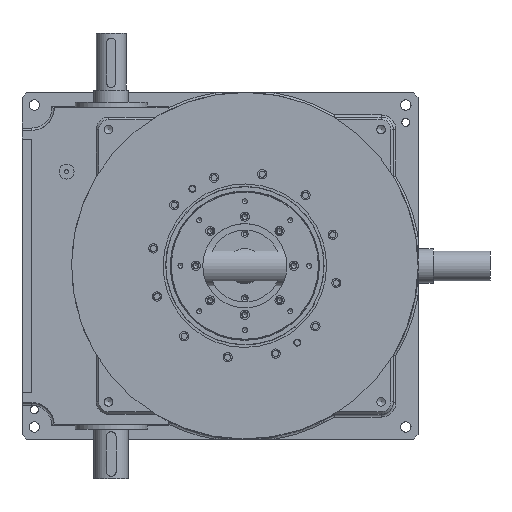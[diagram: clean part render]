
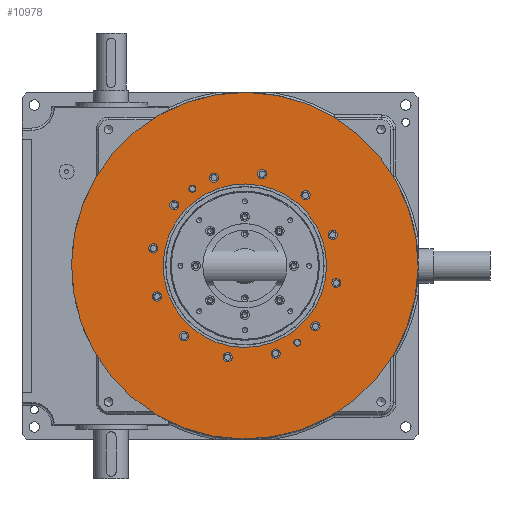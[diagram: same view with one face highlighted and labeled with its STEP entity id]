
A CAD part, top view. The second image highlights one B-rep face of the part: STEP entity #10978.
In plain terms, the highlighted planar face has unit normal (0, 0, 1).
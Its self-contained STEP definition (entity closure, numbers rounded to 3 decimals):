
#10978 = ADVANCED_FACE( '', ( #20143, #20144, #20145, #20146, #20147, #20148, #20149, #20150, #20151, #20152, #20153, #20154, #20155, #20156, #20157, #20158 ), #20159, .T. );
#20143 = FACE_BOUND( '', #23901, .T. );
#20144 = FACE_BOUND( '', #23902, .T. );
#20145 = FACE_BOUND( '', #23903, .T. );
#20146 = FACE_BOUND( '', #23904, .T. );
#20147 = FACE_BOUND( '', #23905, .T. );
#20148 = FACE_BOUND( '', #23906, .T. );
#20149 = FACE_BOUND( '', #23907, .T. );
#20150 = FACE_BOUND( '', #23908, .T. );
#20151 = FACE_BOUND( '', #23909, .T. );
#20152 = FACE_BOUND( '', #23910, .T. );
#20153 = FACE_BOUND( '', #23911, .T. );
#20154 = FACE_BOUND( '', #23912, .T. );
#20155 = FACE_BOUND( '', #23913, .T. );
#20156 = FACE_BOUND( '', #23914, .T. );
#20157 = FACE_BOUND( '', #23915, .T. );
#20158 = FACE_OUTER_BOUND( '', #23916, .T. );
#20159 = PLANE( '', #23917 );
#23901 = EDGE_LOOP( '', ( #29271 ) );
#23902 = EDGE_LOOP( '', ( #29272 ) );
#23903 = EDGE_LOOP( '', ( #29273 ) );
#23904 = EDGE_LOOP( '', ( #29274 ) );
#23905 = EDGE_LOOP( '', ( #29275 ) );
#23906 = EDGE_LOOP( '', ( #29276 ) );
#23907 = EDGE_LOOP( '', ( #29277 ) );
#23908 = EDGE_LOOP( '', ( #29278 ) );
#23909 = EDGE_LOOP( '', ( #29279 ) );
#23910 = EDGE_LOOP( '', ( #29280 ) );
#23911 = EDGE_LOOP( '', ( #29281 ) );
#23912 = EDGE_LOOP( '', ( #29282 ) );
#23913 = EDGE_LOOP( '', ( #29283 ) );
#23914 = EDGE_LOOP( '', ( #29284 ) );
#23915 = EDGE_LOOP( '', ( #29285 ) );
#23916 = EDGE_LOOP( '', ( #29286 ) );
#23917 = AXIS2_PLACEMENT_3D( '', #29287, #29288, #29289 );
#29271 = ORIENTED_EDGE( '', *, *, #37370, .T. );
#29272 = ORIENTED_EDGE( '', *, *, #37411, .T. );
#29273 = ORIENTED_EDGE( '', *, *, #37412, .T. );
#29274 = ORIENTED_EDGE( '', *, *, #37413, .T. );
#29275 = ORIENTED_EDGE( '', *, *, #37414, .T. );
#29276 = ORIENTED_EDGE( '', *, *, #37415, .T. );
#29277 = ORIENTED_EDGE( '', *, *, #37416, .T. );
#29278 = ORIENTED_EDGE( '', *, *, #37417, .T. );
#29279 = ORIENTED_EDGE( '', *, *, #37418, .T. );
#29280 = ORIENTED_EDGE( '', *, *, #37419, .T. );
#29281 = ORIENTED_EDGE( '', *, *, #37420, .T. );
#29282 = ORIENTED_EDGE( '', *, *, #37421, .T. );
#29283 = ORIENTED_EDGE( '', *, *, #37422, .T. );
#29284 = ORIENTED_EDGE( '', *, *, #37423, .T. );
#29285 = ORIENTED_EDGE( '', *, *, #37424, .F. );
#29286 = ORIENTED_EDGE( '', *, *, #37364, .F. );
#29287 = CARTESIAN_POINT( '', ( 80., 0., 77. ) );
#29288 = DIRECTION( '', ( 0., 0., 1. ) );
#29289 = DIRECTION( '', ( 1., 0., 0. ) );
#37364 = EDGE_CURVE( '', #41152, #41152, #41153, .F. );
#37370 = EDGE_CURVE( '', #41164, #41164, #41165, .T. );
#37411 = EDGE_CURVE( '', #41246, #41246, #41247, .T. );
#37412 = EDGE_CURVE( '', #41248, #41248, #41249, .T. );
#37413 = EDGE_CURVE( '', #41250, #41250, #41251, .T. );
#37414 = EDGE_CURVE( '', #41252, #41252, #41253, .T. );
#37415 = EDGE_CURVE( '', #41254, #41254, #41255, .T. );
#37416 = EDGE_CURVE( '', #41256, #41256, #41257, .T. );
#37417 = EDGE_CURVE( '', #41258, #41258, #41259, .T. );
#37418 = EDGE_CURVE( '', #41260, #41260, #41261, .T. );
#37419 = EDGE_CURVE( '', #41262, #41262, #41263, .T. );
#37420 = EDGE_CURVE( '', #41264, #41264, #41265, .T. );
#37421 = EDGE_CURVE( '', #41266, #41266, #41267, .T. );
#37422 = EDGE_CURVE( '', #41268, #41268, #41269, .T. );
#37423 = EDGE_CURVE( '', #41270, #41270, #41271, .T. );
#37424 = EDGE_CURVE( '', #41272, #41272, #41273, .T. );
#41152 = VERTEX_POINT( '', #41332 );
#41153 = CIRCLE( '', #41333, 350. );
#41164 = VERTEX_POINT( '', #41344 );
#41165 = CIRCLE( '', #41345, 7.25 );
#41246 = VERTEX_POINT( '', #41426 );
#41247 = CIRCLE( '', #41427, 7.25 );
#41248 = VERTEX_POINT( '', #41428 );
#41249 = CIRCLE( '', #41429, 9.25 );
#41250 = VERTEX_POINT( '', #41430 );
#41251 = CIRCLE( '', #41431, 9.25 );
#41252 = VERTEX_POINT( '', #41432 );
#41253 = CIRCLE( '', #41433, 9.25 );
#41254 = VERTEX_POINT( '', #41434 );
#41255 = CIRCLE( '', #41435, 9.25 );
#41256 = VERTEX_POINT( '', #41436 );
#41257 = CIRCLE( '', #41437, 9.25 );
#41258 = VERTEX_POINT( '', #41438 );
#41259 = CIRCLE( '', #41439, 9.25 );
#41260 = VERTEX_POINT( '', #41440 );
#41261 = CIRCLE( '', #41441, 9.25 );
#41262 = VERTEX_POINT( '', #41442 );
#41263 = CIRCLE( '', #41443, 9.25 );
#41264 = VERTEX_POINT( '', #41444 );
#41265 = CIRCLE( '', #41445, 9.25 );
#41266 = VERTEX_POINT( '', #41446 );
#41267 = CIRCLE( '', #41447, 9.25 );
#41268 = VERTEX_POINT( '', #41448 );
#41269 = CIRCLE( '', #41449, 9.25 );
#41270 = VERTEX_POINT( '', #41450 );
#41271 = CIRCLE( '', #41451, 9.25 );
#41272 = VERTEX_POINT( '', #41452 );
#41273 = CIRCLE( '', #41453, 165. );
#41332 = CARTESIAN_POINT( '', ( 350., 0., 77. ) );
#41333 = AXIS2_PLACEMENT_3D( '', #41515, #41516, #41517 );
#41344 = CARTESIAN_POINT( '', ( -132.936, -140.186, 77. ) );
#41345 = AXIS2_PLACEMENT_3D( '', #41533, #41534, #41535 );
#41426 = CARTESIAN_POINT( '', ( 132.936, 125.686, 77. ) );
#41427 = AXIS2_PLACEMENT_3D( '', #41656, #41657, #41658 );
#41428 = CARTESIAN_POINT( '', ( -94., 153.563, 77. ) );
#41429 = AXIS2_PLACEMENT_3D( '', #41659, #41660, #41661 );
#41430 = CARTESIAN_POINT( '', ( -162.813, 84.75, 77. ) );
#41431 = AXIS2_PLACEMENT_3D( '', #41662, #41663, #41664 );
#41432 = CARTESIAN_POINT( '', ( -188., -9.25, 77. ) );
#41433 = AXIS2_PLACEMENT_3D( '', #41665, #41666, #41667 );
#41434 = CARTESIAN_POINT( '', ( -162.813, -103.25, 77. ) );
#41435 = AXIS2_PLACEMENT_3D( '', #41668, #41669, #41670 );
#41436 = CARTESIAN_POINT( '', ( -94., -172.063, 77. ) );
#41437 = AXIS2_PLACEMENT_3D( '', #41671, #41672, #41673 );
#41438 = CARTESIAN_POINT( '', ( 0., -197.25, 77. ) );
#41439 = AXIS2_PLACEMENT_3D( '', #41674, #41675, #41676 );
#41440 = CARTESIAN_POINT( '', ( 94., -172.063, 77. ) );
#41441 = AXIS2_PLACEMENT_3D( '', #41677, #41678, #41679 );
#41442 = CARTESIAN_POINT( '', ( 162.813, -103.25, 77. ) );
#41443 = AXIS2_PLACEMENT_3D( '', #41680, #41681, #41682 );
#41444 = CARTESIAN_POINT( '', ( 188., -9.25, 77. ) );
#41445 = AXIS2_PLACEMENT_3D( '', #41683, #41684, #41685 );
#41446 = CARTESIAN_POINT( '', ( 162.813, 84.75, 77. ) );
#41447 = AXIS2_PLACEMENT_3D( '', #41686, #41687, #41688 );
#41448 = CARTESIAN_POINT( '', ( 94., 153.563, 77. ) );
#41449 = AXIS2_PLACEMENT_3D( '', #41689, #41690, #41691 );
#41450 = CARTESIAN_POINT( '', ( 0., 178.75, 77. ) );
#41451 = AXIS2_PLACEMENT_3D( '', #41692, #41693, #41694 );
#41452 = CARTESIAN_POINT( '', ( 165., 0., 77. ) );
#41453 = AXIS2_PLACEMENT_3D( '', #41695, #41696, #41697 );
#41515 = CARTESIAN_POINT( '', ( 0., 0., 77. ) );
#41516 = DIRECTION( '', ( 0., 0., 1. ) );
#41517 = DIRECTION( '', ( 1., 0., 0. ) );
#41533 = CARTESIAN_POINT( '', ( -132.936, -132.936, 77. ) );
#41534 = DIRECTION( '', ( 0., 0., -1. ) );
#41535 = DIRECTION( '', ( 0., -1., 0. ) );
#41656 = CARTESIAN_POINT( '', ( 132.936, 132.936, 77. ) );
#41657 = DIRECTION( '', ( 0., 0., -1. ) );
#41658 = DIRECTION( '', ( 0., -1., 0. ) );
#41659 = CARTESIAN_POINT( '', ( -94., 162.813, 77. ) );
#41660 = DIRECTION( '', ( 0., 0., -1. ) );
#41661 = DIRECTION( '', ( 0., -1., 0. ) );
#41662 = CARTESIAN_POINT( '', ( -162.813, 94., 77. ) );
#41663 = DIRECTION( '', ( 0., 0., -1. ) );
#41664 = DIRECTION( '', ( 0., -1., 0. ) );
#41665 = CARTESIAN_POINT( '', ( -188., 0., 77. ) );
#41666 = DIRECTION( '', ( 0., 0., -1. ) );
#41667 = DIRECTION( '', ( 0., -1., 0. ) );
#41668 = CARTESIAN_POINT( '', ( -162.813, -94., 77. ) );
#41669 = DIRECTION( '', ( 0., 0., -1. ) );
#41670 = DIRECTION( '', ( 0., -1., 0. ) );
#41671 = CARTESIAN_POINT( '', ( -94., -162.813, 77. ) );
#41672 = DIRECTION( '', ( 0., 0., -1. ) );
#41673 = DIRECTION( '', ( 0., -1., 0. ) );
#41674 = CARTESIAN_POINT( '', ( 0., -188., 77. ) );
#41675 = DIRECTION( '', ( 0., 0., -1. ) );
#41676 = DIRECTION( '', ( 0., -1., 0. ) );
#41677 = CARTESIAN_POINT( '', ( 94., -162.813, 77. ) );
#41678 = DIRECTION( '', ( 0., 0., -1. ) );
#41679 = DIRECTION( '', ( 0., -1., 0. ) );
#41680 = CARTESIAN_POINT( '', ( 162.813, -94., 77. ) );
#41681 = DIRECTION( '', ( 0., 0., -1. ) );
#41682 = DIRECTION( '', ( 0., -1., 0. ) );
#41683 = CARTESIAN_POINT( '', ( 188., 0., 77. ) );
#41684 = DIRECTION( '', ( 0., 0., -1. ) );
#41685 = DIRECTION( '', ( 0., -1., 0. ) );
#41686 = CARTESIAN_POINT( '', ( 162.813, 94., 77. ) );
#41687 = DIRECTION( '', ( 0., 0., -1. ) );
#41688 = DIRECTION( '', ( 0., -1., 0. ) );
#41689 = CARTESIAN_POINT( '', ( 94., 162.813, 77. ) );
#41690 = DIRECTION( '', ( 0., 0., -1. ) );
#41691 = DIRECTION( '', ( 0., -1., 0. ) );
#41692 = CARTESIAN_POINT( '', ( 0., 188., 77. ) );
#41693 = DIRECTION( '', ( 0., 0., -1. ) );
#41694 = DIRECTION( '', ( 0., -1., 0. ) );
#41695 = CARTESIAN_POINT( '', ( 0., 0., 77. ) );
#41696 = DIRECTION( '', ( 0., 0., 1. ) );
#41697 = DIRECTION( '', ( 1., 0., 0. ) );
